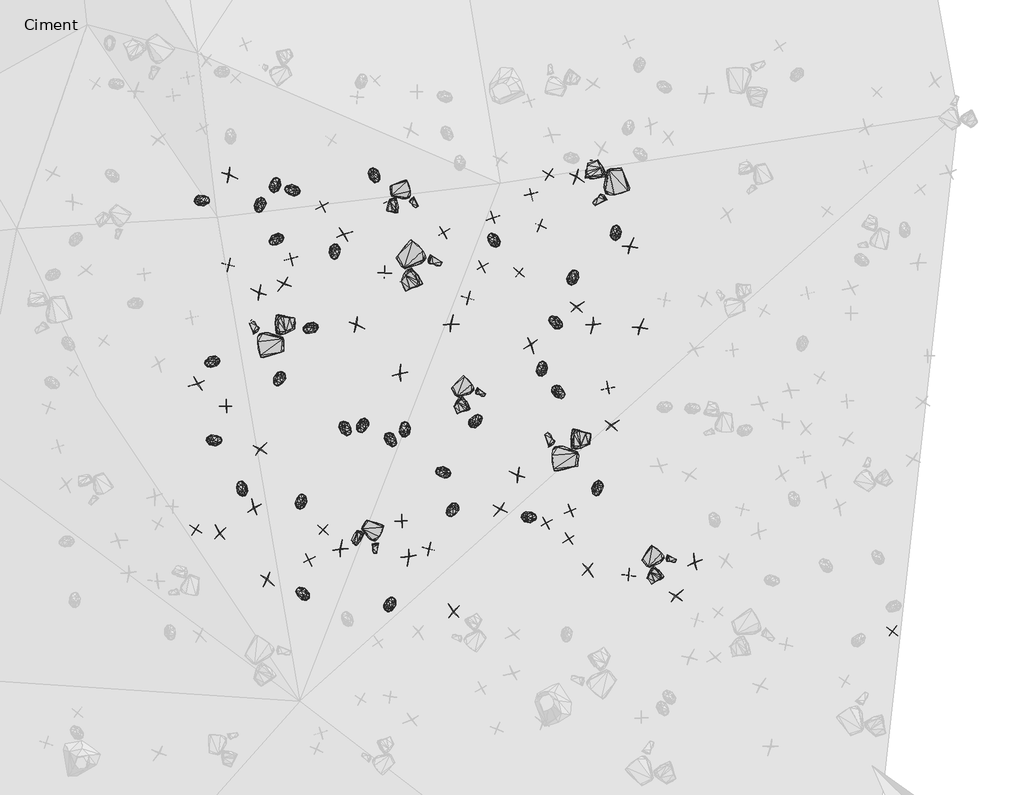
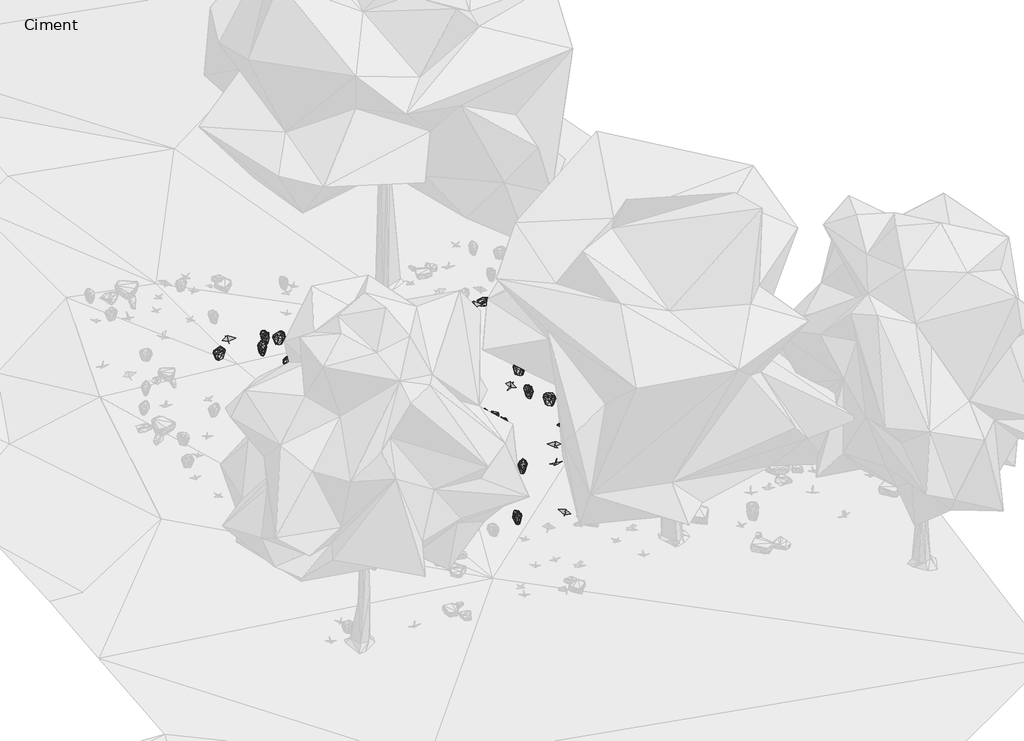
# One storey, part 18 of 30: 89 geographic elements.
"""IFC4 building model written with IfcOpenShell, lengths in millimetres."""

from ifc_helpers import new_model, si_unit, origin, place, context, project, spatial, transform, mapped, element, save
from components import enscape_assetdefinition_bush_025_fern_enscape_5718bf32, enscape_assetdefinition_bush_054_plant_09_version_2_enscape_7b546a12, enscape_assetdefinition_bush_062_plant_09_version_3_enscape_ccf8c8eb, enscape_assetdefinition_stone_013_group_enscape_516da325, enscape_assetdefinition_stone_013_group_enscape_db9b3e91

model = new_model("IFC4")

# Units and contexts
model_context = context("Model", 3, world=origin())
ifc_project = project(units=[si_unit("LENGTHUNIT", "METRE", prefix="MILLI")], contexts=[model_context])

# Site, building, storey
site = spatial("IfcSite", under=ifc_project)
building = spatial("IfcBuilding", under=site)
storey = spatial("IfcBuildingStorey", under=building, Name="Ciment", Elevation=-1500.0)

# Geographic elements
placement = place(None, origin())
enscape_assetdefinition_bush_025_fern_enscape_shape = enscape_assetdefinition_bush_025_fern_enscape_5718bf32(model_context)
element("IfcGeographicElement", 1, ObjectType="Enscape AssetDefinition - Bush 025 Fern : Enscape AssetDefinition - Bush 025 Fern", at=placement, inside=storey, context=model_context, shape_type="MappedRepresentation", body=[
    mapped(enscape_assetdefinition_bush_025_fern_enscape_shape, transform((20429.9945831, -5475.0347137, -2126.5244484), x_axis=(-0.9916367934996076, 0.12905994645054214, 0.0), y_axis=(-0.12905994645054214, -0.9916367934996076, 0.0), z_axis=(0.0, 0.0, 1.0))),
])
element("IfcGeographicElement", 2, ObjectType="Enscape AssetDefinition - Bush 025 Fern : Enscape AssetDefinition - Bush 025 Fern", at=placement, inside=storey, context=model_context, shape_type="MappedRepresentation", body=[
    mapped(enscape_assetdefinition_bush_025_fern_enscape_shape, transform((18992.4526215, -4648.5671997, -1836.2388611), x_axis=(-0.3799114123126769, -0.9250228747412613, 0.0), y_axis=(0.9250228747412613, -0.3799114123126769, 0.0), z_axis=(0.0, 0.0, 1.0))),
])
element("IfcGeographicElement", 3, ObjectType="Enscape AssetDefinition - Bush 025 Fern : Enscape AssetDefinition - Bush 025 Fern", at=placement, inside=storey, context=model_context, shape_type="MappedRepresentation", body=[
    mapped(enscape_assetdefinition_bush_025_fern_enscape_shape, transform((23517.868042, -1201.7459869, -2312.9065037), x_axis=(-0.02106821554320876, 0.9997780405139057, 0.0), y_axis=(-0.9997780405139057, -0.02106821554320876, 0.0), z_axis=(0.0, 0.0, 1.0))),
])
element("IfcGeographicElement", 4, ObjectType="Enscape AssetDefinition - Bush 025 Fern : Enscape AssetDefinition - Bush 025 Fern", at=placement, inside=storey, context=model_context, shape_type="MappedRepresentation", body=[
    mapped(enscape_assetdefinition_bush_025_fern_enscape_shape, transform((17742.1741486, -441.8296814, -1215.6568766), x_axis=(-0.9945937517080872, 0.10384252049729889, 0.0), y_axis=(-0.10384252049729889, -0.9945937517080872, 0.0), z_axis=(0.0, 0.0, 1.0))),
])
element("IfcGeographicElement", 5, ObjectType="Enscape AssetDefinition - Bush 025 Fern : Enscape AssetDefinition - Bush 025 Fern", at=placement, inside=storey, context=model_context, shape_type="MappedRepresentation", body=[
    mapped(enscape_assetdefinition_bush_025_fern_enscape_shape, transform((21022.146225, -4562.297821, -2157.5498581), x_axis=(0.621239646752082, 0.7836206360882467, 0.0), y_axis=(-0.7836206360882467, 0.621239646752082, 0.0), z_axis=(0.0, 0.0, 1.0))),
])
element("IfcGeographicElement", 6, ObjectType="Enscape AssetDefinition - Bush 025 Fern : Enscape AssetDefinition - Bush 025 Fern", at=placement, inside=storey, context=model_context, shape_type="MappedRepresentation", body=[
    mapped(enscape_assetdefinition_bush_025_fern_enscape_shape, transform((16145.4944611, -638.0557418, -947.3489523), x_axis=(0.9839113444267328, 0.178657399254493, 0.0), y_axis=(-0.178657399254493, 0.9839113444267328, 0.0), z_axis=(0.0, 0.0, 1.0))),
])
element("IfcGeographicElement", 7, ObjectType="Enscape AssetDefinition - Bush 025 Fern : Enscape AssetDefinition - Bush 025 Fern", at=placement, inside=storey, context=model_context, shape_type="MappedRepresentation", body=[
    mapped(enscape_assetdefinition_bush_025_fern_enscape_shape, transform((17909.2311859, -5995.3522682, -1719.640255), x_axis=(0.1477593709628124, 0.9890233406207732, 0.0), y_axis=(-0.9890233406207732, 0.1477593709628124, 0.0), z_axis=(0.0, 0.0, 1.0))),
])
element("IfcGeographicElement", 8, ObjectType="Enscape AssetDefinition - Bush 025 Fern : Enscape AssetDefinition - Bush 025 Fern", at=placement, inside=storey, context=model_context, shape_type="MappedRepresentation", body=[
    mapped(enscape_assetdefinition_bush_025_fern_enscape_shape, transform((23180.6926727, -5766.8018341, -2461.9207382), x_axis=(-0.1483218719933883, -0.9889391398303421, 0.0), y_axis=(0.9889391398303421, -0.1483218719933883, 0.0), z_axis=(0.0, 0.0, 1.0))),
])
element("IfcGeographicElement", 9, ObjectType="Enscape AssetDefinition - Bush 025 Fern : Enscape AssetDefinition - Bush 025 Fern", at=placement, inside=storey, context=model_context, shape_type="MappedRepresentation", body=[
    mapped(enscape_assetdefinition_bush_025_fern_enscape_shape, transform((20595.7355499, -6149.980545, -2182.259798), x_axis=(-0.4958981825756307, -0.8683806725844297, 0.0), y_axis=(0.8683806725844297, -0.4958981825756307, 0.0), z_axis=(0.0, 0.0, 1.0))),
])
element("IfcGeographicElement", 10, ObjectType="Enscape AssetDefinition - Bush 025 Fern : Enscape AssetDefinition - Bush 025 Fern", at=placement, inside=storey, context=model_context, shape_type="MappedRepresentation", body=[
    mapped(enscape_assetdefinition_bush_025_fern_enscape_shape, transform((17509.1342926, -3814.912796, -1460.5191946), x_axis=(-0.39337338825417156, -0.9193787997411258, 0.0), y_axis=(0.9193787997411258, -0.39337338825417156, 0.0), z_axis=(0.0, 0.0, 1.0))),
])
element("IfcGeographicElement", 11, ObjectType="Enscape AssetDefinition - Bush 025 Fern : Enscape AssetDefinition - Bush 025 Fern", at=placement, inside=storey, context=model_context, shape_type="MappedRepresentation", body=[
    mapped(enscape_assetdefinition_bush_025_fern_enscape_shape, transform((17166.55159, -719.8562622, -1131.8030357), x_axis=(-0.1785359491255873, -0.9839333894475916, 0.0), y_axis=(0.9839333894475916, -0.1785359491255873, 0.0), z_axis=(0.0, 0.0, 1.0))),
])
element("IfcGeographicElement", 12, ObjectType="Enscape AssetDefinition - Bush 025 Fern : Enscape AssetDefinition - Bush 025 Fern", at=placement, inside=storey, context=model_context, shape_type="MappedRepresentation", body=[
    mapped(enscape_assetdefinition_bush_025_fern_enscape_shape, transform((16852.5276184, -5760.5209351, -1508.261323), x_axis=(-0.42142733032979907, 0.9068621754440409, 0.0), y_axis=(-0.9068621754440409, -0.42142733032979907, 0.0), z_axis=(0.0, 0.0, 1.0))),
])
element("IfcGeographicElement", 13, ObjectType="Enscape AssetDefinition - Bush 025 Fern : Enscape AssetDefinition - Bush 025 Fern", at=placement, inside=storey, context=model_context, shape_type="MappedRepresentation", body=[
    mapped(enscape_assetdefinition_bush_025_fern_enscape_shape, transform((22200.9029388, -3625.3814697, -2263.812542), x_axis=(0.02608680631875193, 0.9996596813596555, 0.0), y_axis=(-0.9996596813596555, 0.02608680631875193, 0.0), z_axis=(0.0, 0.0, 1.0))),
])
element("IfcGeographicElement", 14, ObjectType="Enscape AssetDefinition - Bush 025 Fern : Enscape AssetDefinition - Bush 025 Fern", at=placement, inside=storey, context=model_context, shape_type="MappedRepresentation", body=[
    mapped(enscape_assetdefinition_bush_025_fern_enscape_shape, transform((18064.0087128, -2906.496048, -1502.6144981), x_axis=(-0.9023000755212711, -0.43110854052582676, 0.0), y_axis=(0.43110854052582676, -0.9023000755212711, 0.0), z_axis=(0.0, 0.0, 1.0))),
])
element("IfcGeographicElement", 15, ObjectType="Enscape AssetDefinition - Bush 025 Fern : Enscape AssetDefinition - Bush 025 Fern", at=placement, inside=storey, context=model_context, shape_type="MappedRepresentation", body=[
    mapped(enscape_assetdefinition_bush_025_fern_enscape_shape, transform((16311.7465973, -3506.7672729, -1225.3676653), x_axis=(-0.9101485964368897, -0.414281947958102, 0.0), y_axis=(0.414281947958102, -0.9101485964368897, 0.0), z_axis=(0.0, 0.0, 1.0))),
])
element("IfcGeographicElement", 16, ObjectType="Enscape AssetDefinition - Bush 025 Fern : Enscape AssetDefinition - Bush 025 Fern", at=placement, inside=storey, context=model_context, shape_type="MappedRepresentation", body=[
    mapped(enscape_assetdefinition_bush_025_fern_enscape_shape, transform((22757.2498322, -2000.1544952, -2254.140377), x_axis=(0.25272256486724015, 0.9675387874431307, 0.0), y_axis=(-0.9675387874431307, 0.25272256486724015, 0.0), z_axis=(0.0, 0.0, 1.0))),
])
element("IfcGeographicElement", 17, ObjectType="Enscape AssetDefinition - Bush 025 Fern : Enscape AssetDefinition - Bush 025 Fern", at=placement, inside=storey, context=model_context, shape_type="MappedRepresentation", body=[
    mapped(enscape_assetdefinition_bush_025_fern_enscape_shape, transform((19500.2613068, -4905.2677155, -1962.5496864), x_axis=(0.6623622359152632, -0.7491837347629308, 0.0), y_axis=(0.7491837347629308, 0.6623622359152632, 0.0), z_axis=(0.0, 0.0, 1.0))),
])
element("IfcGeographicElement", 18, ObjectType="Enscape AssetDefinition - Bush 025 Fern : Enscape AssetDefinition - Bush 025 Fern", at=placement, inside=storey, context=model_context, shape_type="MappedRepresentation", body=[
    mapped(enscape_assetdefinition_bush_025_fern_enscape_shape, transform((18497.7931976, -1550.9548187, -1483.4547043), x_axis=(0.0647370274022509, -0.9979023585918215, 0.0), y_axis=(0.9979023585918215, 0.0647370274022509, 0.0), z_axis=(0.0, 0.0, 1.0))),
])
element("IfcGeographicElement", 19, ObjectType="Enscape AssetDefinition - Bush 025 Fern : Enscape AssetDefinition - Bush 025 Fern", at=placement, inside=storey, context=model_context, shape_type="MappedRepresentation", body=[
    mapped(enscape_assetdefinition_bush_025_fern_enscape_shape, transform((17453.8249969, -1327.1120787, -1248.2994795), x_axis=(-0.7816274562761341, -0.6237455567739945, 0.0), y_axis=(0.6237455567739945, -0.7816274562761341, 0.0), z_axis=(0.0, 0.0, 1.0))),
])
element("IfcGeographicElement", 20, ObjectType="Enscape AssetDefinition - Bush 025 Fern : Enscape AssetDefinition - Bush 025 Fern", at=placement, inside=storey, context=model_context, shape_type="MappedRepresentation", body=[
    mapped(enscape_assetdefinition_bush_025_fern_enscape_shape, transform((22492.4945831, -4055.6445122, -2323.5783577), x_axis=(0.805632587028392, -0.5924155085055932, 0.0), y_axis=(0.5924155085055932, 0.805632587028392, 0.0), z_axis=(0.0, 0.0, 1.0))),
])
element("IfcGeographicElement", 21, ObjectType="Enscape AssetDefinition - Bush 025 Fern : Enscape AssetDefinition - Bush 025 Fern", at=placement, inside=storey, context=model_context, shape_type="MappedRepresentation", body=[
    mapped(enscape_assetdefinition_bush_025_fern_enscape_shape, transform((17929.3384552, -7633.7413788, -1856.0079336), x_axis=(-0.8194185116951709, 0.5731956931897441, 0.0), y_axis=(-0.5731956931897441, -0.8194185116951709, 0.0), z_axis=(0.0, 0.0, 1.0))),
])
element("IfcGeographicElement", 22, ObjectType="Enscape AssetDefinition - Bush 025 Fern : Enscape AssetDefinition - Bush 025 Fern", at=placement, inside=storey, context=model_context, shape_type="MappedRepresentation", body=[
    mapped(enscape_assetdefinition_bush_025_fern_enscape_shape, transform((17446.5045929, -350.6736755, -1138.6846304), x_axis=(0.1604189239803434, 0.9870490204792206, 0.0), y_axis=(-0.9870490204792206, 0.1604189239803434, 0.0), z_axis=(0.0, 0.0, 1.0))),
])
element("IfcGeographicElement", 23, ObjectType="Enscape AssetDefinition - Bush 025 Fern : Enscape AssetDefinition - Bush 025 Fern", at=placement, inside=storey, context=model_context, shape_type="MappedRepresentation", body=[
    mapped(enscape_assetdefinition_bush_025_fern_enscape_shape, transform((22436.3574982, -2798.2158661, -2252.6726723), x_axis=(-0.8386980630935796, 0.544596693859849, 0.0), y_axis=(-0.544596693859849, -0.8386980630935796, 0.0), z_axis=(0.0, 0.0, 1.0))),
])
element("IfcGeographicElement", 24, ObjectType="Enscape AssetDefinition - Bush 025 Fern : Enscape AssetDefinition - Bush 025 Fern", at=placement, inside=storey, context=model_context, shape_type="MappedRepresentation", body=[
    mapped(enscape_assetdefinition_bush_025_fern_enscape_shape, transform((16361.9937897, -4911.491394, -1362.6643419), x_axis=(0.9962879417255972, 0.08608331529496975, 0.0), y_axis=(-0.08608331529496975, 0.9962879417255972, 0.0), z_axis=(0.0, 0.0, 1.0))),
])
element("IfcGeographicElement", 25, ObjectType="Enscape AssetDefinition - Bush 025 Fern : Enscape AssetDefinition - Bush 025 Fern", at=placement, inside=storey, context=model_context, shape_type="MappedRepresentation", body=[
    mapped(enscape_assetdefinition_bush_025_fern_enscape_shape, transform((21336.9140625, -1331.111908, -2035.1753235), x_axis=(-0.676167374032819, 0.736748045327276, 0.0), y_axis=(-0.736748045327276, -0.676167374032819, 0.0), z_axis=(0.0, 0.0, 1.0))),
])
element("IfcGeographicElement", 26, ObjectType="Enscape AssetDefinition - Bush 025 Fern : Enscape AssetDefinition - Bush 025 Fern", at=placement, inside=storey, context=model_context, shape_type="MappedRepresentation", body=[
    mapped(enscape_assetdefinition_bush_025_fern_enscape_shape, transform((19494.2455292, -7828.918457, -2123.5918999), x_axis=(0.3709251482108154, 0.9286627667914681, 0.0), y_axis=(-0.9286627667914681, 0.3709251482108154, 0.0), z_axis=(0.0, 0.0, 1.0))),
])
element("IfcGeographicElement", 27, ObjectType="Enscape AssetDefinition - Bush 025 Fern : Enscape AssetDefinition - Bush 025 Fern", at=placement, inside=storey, context=model_context, shape_type="MappedRepresentation", body=[
    mapped(enscape_assetdefinition_bush_025_fern_enscape_shape, transform((19205.0266266, -193.1381226, -1495.0979948), x_axis=(0.5248294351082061, -0.8512074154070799, 0.0), y_axis=(0.8512074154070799, 0.5248294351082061, 0.0), z_axis=(0.0, 0.0, 1.0))),
])
element("IfcGeographicElement", 28, ObjectType="Enscape AssetDefinition - Bush 025 Fern : Enscape AssetDefinition - Bush 025 Fern", at=placement, inside=storey, context=model_context, shape_type="MappedRepresentation", body=[
    mapped(enscape_assetdefinition_bush_025_fern_enscape_shape, transform((19755.361557, -4706.653595, -1999.5732307), x_axis=(-0.07385146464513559, 0.9972692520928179, 0.0), y_axis=(-0.9972692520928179, -0.07385146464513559, 0.0), z_axis=(0.0, 0.0, 1.0))),
])
element("IfcGeographicElement", 29, ObjectType="Enscape AssetDefinition - Bush 025 Fern : Enscape AssetDefinition - Bush 025 Fern", at=placement, inside=storey, context=model_context, shape_type="MappedRepresentation", body=[
    mapped(enscape_assetdefinition_bush_025_fern_enscape_shape, transform((21973.783493, -6281.5208435, -2353.1739712), x_axis=(0.996727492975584, 0.08083504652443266, 0.0), y_axis=(-0.08083504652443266, 0.996727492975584, 0.0), z_axis=(0.0, 0.0, 1.0))),
])
element("IfcGeographicElement", 30, ObjectType="Enscape AssetDefinition - Bush 025 Fern : Enscape AssetDefinition - Bush 025 Fern", at=placement, inside=storey, context=model_context, shape_type="MappedRepresentation", body=[
    mapped(enscape_assetdefinition_bush_025_fern_enscape_shape, transform((18692.8462982, -4705.7271004, -1778.5462141), x_axis=(0.6329891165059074, -0.7741606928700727, 0.0), y_axis=(0.7741606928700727, 0.6329891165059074, 0.0), z_axis=(0.0, 0.0, 1.0))),
])
enscape_assetdefinition_bush_054_plant_09_version_2_enscape_shape = enscape_assetdefinition_bush_054_plant_09_version_2_enscape_7b546a12(model_context)
element("IfcGeographicElement", 31, ObjectType="Enscape AssetDefinition - Bush 054 Plant 09, Version 2 : Enscape AssetDefinition - Bush 054 Plant 09, Version 2", at=placement, inside=storey, context=model_context, shape_type="MappedRepresentation", body=[
    mapped(enscape_assetdefinition_bush_054_plant_09_version_2_enscape_shape, transform((19389.6961212, -1918.6115265, -1698.590517), x_axis=(0.019739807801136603, -0.9998051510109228, 0.0), y_axis=(0.9998051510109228, 0.019739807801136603, 0.0), z_axis=(0.0, 0.0, 1.0))),
])
element("IfcGeographicElement", 32, ObjectType="Enscape AssetDefinition - Bush 054 Plant 09, Version 2 : Enscape AssetDefinition - Bush 054 Plant 09, Version 2", at=placement, inside=storey, context=model_context, shape_type="MappedRepresentation", body=[
    mapped(enscape_assetdefinition_bush_054_plant_09_version_2_enscape_shape, transform((22676.9104004, -6670.0267792, -2423.7625599), x_axis=(0.812369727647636, 0.5831427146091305, 0.0), y_axis=(-0.5831427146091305, 0.812369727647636, 0.0), z_axis=(0.0, 0.0, 1.0))),
])
element("IfcGeographicElement", 33, ObjectType="Enscape AssetDefinition - Bush 054 Plant 09, Version 2 : Enscape AssetDefinition - Bush 054 Plant 09, Version 2", at=placement, inside=storey, context=model_context, shape_type="MappedRepresentation", body=[
    mapped(enscape_assetdefinition_bush_054_plant_09_version_2_enscape_shape, transform((18284.4791412, -731.6246033, -1372.9912043), x_axis=(-0.5066175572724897, 0.8621708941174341, 0.0), y_axis=(-0.8621708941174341, -0.5066175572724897, 0.0), z_axis=(0.0, 0.0, 1.0))),
])
element("IfcGeographicElement", 34, ObjectType="Enscape AssetDefinition - Bush 054 Plant 09, Version 2 : Enscape AssetDefinition - Bush 054 Plant 09, Version 2", at=placement, inside=storey, context=model_context, shape_type="MappedRepresentation", body=[
    mapped(enscape_assetdefinition_bush_054_plant_09_version_2_enscape_shape, transform((22706.5296173, -6167.9096222, -2421.2870598), x_axis=(0.8968799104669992, 0.4422741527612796, 0.0), y_axis=(-0.4422741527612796, 0.8968799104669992, 0.0), z_axis=(0.0, 0.0, 1.0))),
])
element("IfcGeographicElement", 35, ObjectType="Enscape AssetDefinition - Bush 054 Plant 09, Version 2 : Enscape AssetDefinition - Bush 054 Plant 09, Version 2", at=placement, inside=storey, context=model_context, shape_type="MappedRepresentation", body=[
    mapped(enscape_assetdefinition_bush_054_plant_09_version_2_enscape_shape, transform((22163.8889313, -1075.548172, -2130.0423145), x_axis=(-0.9529272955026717, 0.3031988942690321, 0.0), y_axis=(-0.3031988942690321, -0.9529272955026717, 0.0), z_axis=(0.0, 0.0, 1.0))),
])
element("IfcGeographicElement", 36, ObjectType="Enscape AssetDefinition - Bush 054 Plant 09, Version 2 : Enscape AssetDefinition - Bush 054 Plant 09, Version 2", at=placement, inside=storey, context=model_context, shape_type="MappedRepresentation", body=[
    mapped(enscape_assetdefinition_bush_054_plant_09_version_2_enscape_shape, transform((20179.9869537, -6847.34869, -2163.3358002), x_axis=(0.9891725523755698, -0.14675715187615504, 0.0), y_axis=(0.14675715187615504, 0.9891725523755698, 0.0), z_axis=(0.0, 0.0, 1.0))),
])
element("IfcGeographicElement", 37, ObjectType="Enscape AssetDefinition - Bush 054 Plant 09, Version 2 : Enscape AssetDefinition - Bush 054 Plant 09, Version 2", at=placement, inside=storey, context=model_context, shape_type="MappedRepresentation", body=[
    mapped(enscape_assetdefinition_bush_054_plant_09_version_2_enscape_shape, transform((19697.2808838, -6353.2524109, -2075.4313469), x_axis=(0.9945570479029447, 0.1041934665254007, 0.0), y_axis=(-0.1041934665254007, 0.9945570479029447, 0.0), z_axis=(0.0, 0.0, 1.0))),
])
element("IfcGeographicElement", 38, ObjectType="Enscape AssetDefinition - Bush 054 Plant 09, Version 2 : Enscape AssetDefinition - Bush 054 Plant 09, Version 2", at=placement, inside=storey, context=model_context, shape_type="MappedRepresentation", body=[
    mapped(enscape_assetdefinition_bush_054_plant_09_version_2_enscape_shape, transform((20444.3321228, -1198.8697052, -1859.8359823), x_axis=(-0.8314252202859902, -0.5556366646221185, 0.0), y_axis=(0.5556366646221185, -0.8314252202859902, 0.0), z_axis=(0.0, 0.0, 1.0))),
])
element("IfcGeographicElement", 39, ObjectType="Enscape AssetDefinition - Bush 054 Plant 09, Version 2 : Enscape AssetDefinition - Bush 054 Plant 09, Version 2", at=placement, inside=storey, context=model_context, shape_type="MappedRepresentation", body=[
    mapped(enscape_assetdefinition_bush_054_plant_09_version_2_enscape_shape, transform((20879.6310425, -2376.0852814, -2028.4161568), x_axis=(0.9795997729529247, -0.20095841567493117, 0.0), y_axis=(0.20095841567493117, 0.9795997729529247, 0.0), z_axis=(0.0, 0.0, 1.0))),
])
element("IfcGeographicElement", 40, ObjectType="Enscape AssetDefinition - Bush 054 Plant 09, Version 2 : Enscape AssetDefinition - Bush 054 Plant 09, Version 2", at=placement, inside=storey, context=model_context, shape_type="MappedRepresentation", body=[
    mapped(enscape_assetdefinition_bush_054_plant_09_version_2_enscape_shape, transform((28443.7618256, -8309.1602325, -2986.4516258), x_axis=(-0.5613128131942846, -0.8276037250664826, 0.0), y_axis=(0.8276037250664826, -0.5613128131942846, 0.0), z_axis=(0.0, 0.0, 1.0))),
])
element("IfcGeographicElement", 41, ObjectType="Enscape AssetDefinition - Bush 054 Plant 09, Version 2 : Enscape AssetDefinition - Bush 054 Plant 09, Version 2", at=placement, inside=storey, context=model_context, shape_type="MappedRepresentation", body=[
    mapped(enscape_assetdefinition_bush_054_plant_09_version_2_enscape_shape, transform((22313.5700226, -171.6708988, -2105.492115), x_axis=(0.8825220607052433, -0.47027099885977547, 0.0), y_axis=(0.47027099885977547, 0.8825220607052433, 0.0), z_axis=(0.0, 0.0, 1.0))),
])
element("IfcGeographicElement", 42, ObjectType="Enscape AssetDefinition - Bush 054 Plant 09, Version 2 : Enscape AssetDefinition - Bush 054 Plant 09, Version 2", at=placement, inside=storey, context=model_context, shape_type="MappedRepresentation", body=[
    mapped(enscape_assetdefinition_bush_054_plant_09_version_2_enscape_shape, transform((22005.9604645, -520.9866166, -2081.4123154), x_axis=(-0.27984537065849, 0.9600450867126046, 0.0), y_axis=(-0.9600450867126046, -0.27984537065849, 0.0), z_axis=(0.0, 0.0, 1.0))),
])
element("IfcGeographicElement", 43, ObjectType="Enscape AssetDefinition - Bush 054 Plant 09, Version 2 : Enscape AssetDefinition - Bush 054 Plant 09, Version 2", at=placement, inside=storey, context=model_context, shape_type="MappedRepresentation", body=[
    mapped(enscape_assetdefinition_bush_054_plant_09_version_2_enscape_shape, transform((23739.6831512, -7310.1177216, -2531.0130119), x_axis=(-0.02795147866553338, -0.9996092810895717, 0.0), y_axis=(0.9996092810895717, -0.02795147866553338, 0.0), z_axis=(0.0, 0.0, 1.0))),
])
element("IfcGeographicElement", 44, ObjectType="Enscape AssetDefinition - Bush 054 Plant 09, Version 2 : Enscape AssetDefinition - Bush 054 Plant 09, Version 2", at=placement, inside=storey, context=model_context, shape_type="MappedRepresentation", body=[
    mapped(enscape_assetdefinition_bush_054_plant_09_version_2_enscape_shape, transform((22273.4870911, -6378.528595, -2382.5411797), x_axis=(-0.8607932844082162, -0.5089547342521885, 0.0), y_axis=(0.5089547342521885, -0.8607932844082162, 0.0), z_axis=(0.0, 0.0, 1.0))),
])
element("IfcGeographicElement", 45, ObjectType="Enscape AssetDefinition - Bush 054 Plant 09, Version 2 : Enscape AssetDefinition - Bush 054 Plant 09, Version 2", at=placement, inside=storey, context=model_context, shape_type="MappedRepresentation", body=[
    mapped(enscape_assetdefinition_bush_054_plant_09_version_2_enscape_shape, transform((21791.2998199, -1925.1365662, -2124.4409084), x_axis=(0.6052780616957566, 0.7960141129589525, 0.0), y_axis=(-0.7960141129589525, 0.6052780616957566, 0.0), z_axis=(0.0, 0.0, 1.0))),
])
element("IfcGeographicElement", 46, ObjectType="Enscape AssetDefinition - Bush 054 Plant 09, Version 2 : Enscape AssetDefinition - Bush 054 Plant 09, Version 2", at=placement, inside=storey, context=model_context, shape_type="MappedRepresentation", body=[
    mapped(enscape_assetdefinition_bush_054_plant_09_version_2_enscape_shape, transform((21131.7024231, -1807.7794313, -2032.5322151), x_axis=(-0.8637771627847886, -0.5038740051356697, 0.0), y_axis=(0.5038740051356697, -0.8637771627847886, 0.0), z_axis=(0.0, 0.0, 1.0))),
])
element("IfcGeographicElement", 47, ObjectType="Enscape AssetDefinition - Bush 054 Plant 09, Version 2 : Enscape AssetDefinition - Bush 054 Plant 09, Version 2", at=placement, inside=storey, context=model_context, shape_type="MappedRepresentation", body=[
    mapped(enscape_assetdefinition_bush_054_plant_09_version_2_enscape_shape, transform((16027.5478363, -6498.4517097, -1464.5404816), x_axis=(0.49828500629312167, 0.8670132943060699, 0.0), y_axis=(-0.8670132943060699, 0.49828500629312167, 0.0), z_axis=(0.0, 0.0, 1.0))),
])
element("IfcGeographicElement", 48, ObjectType="Enscape AssetDefinition - Bush 054 Plant 09, Version 2 : Enscape AssetDefinition - Bush 054 Plant 09, Version 2", at=placement, inside=storey, context=model_context, shape_type="MappedRepresentation", body=[
    mapped(enscape_assetdefinition_bush_054_plant_09_version_2_enscape_shape, transform((18293.4589386, -6498.7239838, -1840.1532173), x_axis=(-0.6173871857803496, -0.7866594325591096, 0.0), y_axis=(0.7866594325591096, -0.6173871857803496, 0.0), z_axis=(0.0, 0.0, 1.0))),
])
element("IfcGeographicElement", 49, ObjectType="Enscape AssetDefinition - Bush 054 Plant 09, Version 2 : Enscape AssetDefinition - Bush 054 Plant 09, Version 2", at=placement, inside=storey, context=model_context, shape_type="MappedRepresentation", body=[
    mapped(enscape_assetdefinition_bush_054_plant_09_version_2_enscape_shape, transform((18040.0161743, -7034.8544121, -1830.7057619), x_axis=(-0.8753163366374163, -0.4835507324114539, 0.0), y_axis=(0.4835507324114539, -0.8753163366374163, 0.0), z_axis=(0.0, 0.0, 1.0))),
])
element("IfcGeographicElement", 50, ObjectType="Enscape AssetDefinition - Bush 054 Plant 09, Version 2 : Enscape AssetDefinition - Bush 054 Plant 09, Version 2", at=placement, inside=storey, context=model_context, shape_type="MappedRepresentation", body=[
    mapped(enscape_assetdefinition_bush_054_plant_09_version_2_enscape_shape, transform((16566.7438507, -4303.4119606, -1334.0505362), x_axis=(0.9980392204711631, 0.0625916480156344, 0.0), y_axis=(-0.0625916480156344, 0.9980392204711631, 0.0), z_axis=(0.0, 0.0, 1.0))),
])
element("IfcGeographicElement", 51, ObjectType="Enscape AssetDefinition - Bush 054 Plant 09, Version 2 : Enscape AssetDefinition - Bush 054 Plant 09, Version 2", at=placement, inside=storey, context=model_context, shape_type="MappedRepresentation", body=[
    mapped(enscape_assetdefinition_bush_054_plant_09_version_2_enscape_shape, transform((16609.9529266, -1783.8935852, -1109.6675396), x_axis=(0.9855215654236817, -0.1695501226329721, 0.0), y_axis=(0.1695501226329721, 0.9855215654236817, 0.0), z_axis=(0.0, 0.0, 1.0))),
])
element("IfcGeographicElement", 52, ObjectType="Enscape AssetDefinition - Bush 054 Plant 09, Version 2 : Enscape AssetDefinition - Bush 054 Plant 09, Version 2", at=placement, inside=storey, context=model_context, shape_type="MappedRepresentation", body=[
    mapped(enscape_assetdefinition_bush_054_plant_09_version_2_enscape_shape, transform((21317.4419403, -939.453125, -2012.8307343), x_axis=(0.3552396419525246, -0.9347752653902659, 0.0), y_axis=(0.9347752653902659, 0.3552396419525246, 0.0), z_axis=(0.0, 0.0, 1.0))),
])
element("IfcGeographicElement", 53, ObjectType="Enscape AssetDefinition - Bush 054 Plant 09, Version 2 : Enscape AssetDefinition - Bush 054 Plant 09, Version 2", at=placement, inside=storey, context=model_context, shape_type="MappedRepresentation", body=[
    mapped(enscape_assetdefinition_bush_054_plant_09_version_2_enscape_shape, transform((23371.0765839, -3977.3616791, -2434.1373444), x_axis=(0.22935557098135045, -0.9733427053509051, 0.0), y_axis=(0.9733427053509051, 0.22935557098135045, 0.0), z_axis=(0.0, 0.0, 1.0))),
])
element("IfcGeographicElement", 54, ObjectType="Enscape AssetDefinition - Bush 054 Plant 09, Version 2 : Enscape AssetDefinition - Bush 054 Plant 09, Version 2", at=placement, inside=storey, context=model_context, shape_type="MappedRepresentation", body=[
    mapped(enscape_assetdefinition_bush_054_plant_09_version_2_enscape_shape, transform((17728.4297943, -1672.6932526, -1333.286047), x_axis=(-0.2974584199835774, 0.9547347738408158, 0.0), y_axis=(-0.9547347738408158, -0.2974584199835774, 0.0), z_axis=(0.0, 0.0, 1.0))),
])
enscape_assetdefinition_bush_062_plant_09_version_3_enscape_shape = enscape_assetdefinition_bush_062_plant_09_version_3_enscape_ccf8c8eb(model_context)
element("IfcGeographicElement", 55, ObjectType="Enscape AssetDefinition - Bush 062 Plant 09, Version 3 : Enscape AssetDefinition - Bush 062 Plant 09, Version 3", at=placement, inside=storey, context=model_context, shape_type="MappedRepresentation", body=[
    mapped(enscape_assetdefinition_bush_062_plant_09_version_3_enscape_shape, transform((23445.7530975, -4632.7362061, -2475.0733376), x_axis=(0.830559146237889, -0.5569304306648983, 0.0), y_axis=(0.5569304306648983, 0.830559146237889, 0.0), z_axis=(0.0, 0.0, 1.0))),
])
element("IfcGeographicElement", 56, ObjectType="Enscape AssetDefinition - Bush 062 Plant 09, Version 3 : Enscape AssetDefinition - Bush 062 Plant 09, Version 3", at=placement, inside=storey, context=model_context, shape_type="MappedRepresentation", body=[
    mapped(enscape_assetdefinition_bush_062_plant_09_version_3_enscape_shape, transform((23768.4421539, -1443.2582855, -2357.780695), x_axis=(0.9999317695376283, -0.011681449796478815, 0.0), y_axis=(0.011681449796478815, 0.9999317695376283, 0.0), z_axis=(0.0, 0.0, 1.0))),
])
element("IfcGeographicElement", 57, ObjectType="Enscape AssetDefinition - Bush 062 Plant 09, Version 3 : Enscape AssetDefinition - Bush 062 Plant 09, Version 3", at=placement, inside=storey, context=model_context, shape_type="MappedRepresentation", body=[
    mapped(enscape_assetdefinition_bush_062_plant_09_version_3_enscape_shape, transform((23023.5805511, -7218.4166908, -2462.3155594), x_axis=(-0.5652698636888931, -0.8249060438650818, 0.0), y_axis=(0.8249060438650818, -0.5652698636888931, 0.0), z_axis=(0.0, 0.0, 1.0))),
])
element("IfcGeographicElement", 58, ObjectType="Enscape AssetDefinition - Bush 062 Plant 09, Version 3 : Enscape AssetDefinition - Bush 062 Plant 09, Version 3", at=placement, inside=storey, context=model_context, shape_type="MappedRepresentation", body=[
    mapped(enscape_assetdefinition_bush_062_plant_09_version_3_enscape_shape, transform((22822.5154877, -2521.0781097, -2288.990736), x_axis=(0.8304332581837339, -0.5571181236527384, 0.0), y_axis=(0.5571181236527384, 0.8304332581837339, 0.0), z_axis=(0.0, 0.0, 1.0))),
])
element("IfcGeographicElement", 59, ObjectType="Enscape AssetDefinition - Bush 062 Plant 09, Version 3 : Enscape AssetDefinition - Bush 062 Plant 09, Version 3", at=placement, inside=storey, context=model_context, shape_type="MappedRepresentation", body=[
    mapped(enscape_assetdefinition_bush_062_plant_09_version_3_enscape_shape, transform((17178.7776947, -5055.3975105, -1491.9042587), x_axis=(0.9104189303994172, -0.4136875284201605, 0.0), y_axis=(0.4136875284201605, 0.9104189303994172, 0.0), z_axis=(0.0, 0.0, 1.0))),
])
element("IfcGeographicElement", 60, ObjectType="Enscape AssetDefinition - Bush 062 Plant 09, Version 3 : Enscape AssetDefinition - Bush 062 Plant 09, Version 3", at=placement, inside=storey, context=model_context, shape_type="MappedRepresentation", body=[
    mapped(enscape_assetdefinition_bush_062_plant_09_version_3_enscape_shape, transform((21754.2819977, -5528.7570953, -2301.8531799), x_axis=(0.02841568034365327, 0.9995961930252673, 0.0), y_axis=(-0.9995961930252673, 0.02841568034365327, 0.0), z_axis=(0.0, 0.0, 1.0))),
])
element("IfcGeographicElement", 61, ObjectType="Enscape AssetDefinition - Bush 062 Plant 09, Version 3 : Enscape AssetDefinition - Bush 062 Plant 09, Version 3", at=placement, inside=storey, context=model_context, shape_type="MappedRepresentation", body=[
    mapped(enscape_assetdefinition_bush_062_plant_09_version_3_enscape_shape, transform((23105.386734, -2856.8000793, -2342.839241), x_axis=(-0.9852624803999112, -0.17104924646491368, 0.0), y_axis=(0.17104924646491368, -0.9852624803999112, 0.0), z_axis=(0.0, 0.0, 1.0))),
])
element("IfcGeographicElement", 62, ObjectType="Enscape AssetDefinition - Bush 062 Plant 09, Version 3 : Enscape AssetDefinition - Bush 062 Plant 09, Version 3", at=placement, inside=storey, context=model_context, shape_type="MappedRepresentation", body=[
    mapped(enscape_assetdefinition_bush_062_plant_09_version_3_enscape_shape, transform((20577.9247284, -2826.4770508, -2011.8672848), x_axis=(0.9906129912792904, 0.13669638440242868, 0.0), y_axis=(-0.13669638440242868, 0.9906129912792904, 0.0), z_axis=(0.0, 0.0, 1.0))),
])
element("IfcGeographicElement", 63, ObjectType="Enscape AssetDefinition - Bush 062 Plant 09, Version 3 : Enscape AssetDefinition - Bush 062 Plant 09, Version 3", at=placement, inside=storey, context=model_context, shape_type="MappedRepresentation", body=[
    mapped(enscape_assetdefinition_bush_062_plant_09_version_3_enscape_shape, transform((18674.6044159, -1230.381012, -1494.358778), x_axis=(0.6184809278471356, -0.7857998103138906, 0.0), y_axis=(0.7857998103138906, 0.6184809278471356, 0.0), z_axis=(0.0, 0.0, 1.0))),
])
element("IfcGeographicElement", 64, ObjectType="Enscape AssetDefinition - Bush 062 Plant 09, Version 3 : Enscape AssetDefinition - Bush 062 Plant 09, Version 3", at=placement, inside=storey, context=model_context, shape_type="MappedRepresentation", body=[
    mapped(enscape_assetdefinition_bush_062_plant_09_version_3_enscape_shape, transform((16048.3341217, -3906.2995911, -1226.6310453), x_axis=(-0.6261731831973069, 0.7796840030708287, 0.0), y_axis=(-0.7796840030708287, -0.6261731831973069, 0.0), z_axis=(0.0, 0.0, 1.0))),
])
element("IfcGeographicElement", 65, ObjectType="Enscape AssetDefinition - Bush 062 Plant 09, Version 3 : Enscape AssetDefinition - Bush 062 Plant 09, Version 3", at=placement, inside=storey, context=model_context, shape_type="MappedRepresentation", body=[
    mapped(enscape_assetdefinition_bush_062_plant_09_version_3_enscape_shape, transform((19663.7554169, -3709.1941833, -1900.0482559), x_axis=(0.948081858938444, 0.31802639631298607, 0.0), y_axis=(-0.31802639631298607, 0.948081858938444, 0.0), z_axis=(0.0, 0.0, 1.0))),
])
element("IfcGeographicElement", 66, ObjectType="Enscape AssetDefinition - Bush 062 Plant 09, Version 3 : Enscape AssetDefinition - Bush 062 Plant 09, Version 3", at=placement, inside=storey, context=model_context, shape_type="MappedRepresentation", body=[
    mapped(enscape_assetdefinition_bush_062_plant_09_version_3_enscape_shape, transform((24917.6502228, -7075.302124, -2639.9645805), x_axis=(0.8826684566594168, 0.46999616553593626, 0.0), y_axis=(-0.46999616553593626, 0.8826684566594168, 0.0), z_axis=(0.0, 0.0, 1.0))),
])
element("IfcGeographicElement", 67, ObjectType="Enscape AssetDefinition - Bush 062 Plant 09, Version 3 : Enscape AssetDefinition - Bush 062 Plant 09, Version 3", at=placement, inside=storey, context=model_context, shape_type="MappedRepresentation", body=[
    mapped(enscape_assetdefinition_bush_062_plant_09_version_3_enscape_shape, transform((18898.2448578, -2847.7115631, -1671.3532209), x_axis=(-0.07743369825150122, -0.9969975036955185, 0.0), y_axis=(0.9969975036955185, -0.07743369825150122, 0.0), z_axis=(0.0, 0.0, 1.0))),
])
element("IfcGeographicElement", 68, ObjectType="Enscape AssetDefinition - Bush 062 Plant 09, Version 3 : Enscape AssetDefinition - Bush 062 Plant 09, Version 3", at=placement, inside=storey, context=model_context, shape_type="MappedRepresentation", body=[
    mapped(enscape_assetdefinition_bush_062_plant_09_version_3_enscape_shape, transform((21444.7612762, -6145.7672119, -2292.7117348), x_axis=(-0.9341252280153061, 0.35694545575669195, 0.0), y_axis=(-0.35694545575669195, -0.9341252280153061, 0.0), z_axis=(0.0, 0.0, 1.0))),
])
element("IfcGeographicElement", 69, ObjectType="Enscape AssetDefinition - Bush 062 Plant 09, Version 3 : Enscape AssetDefinition - Bush 062 Plant 09, Version 3", at=placement, inside=storey, context=model_context, shape_type="MappedRepresentation", body=[
    mapped(enscape_assetdefinition_bush_062_plant_09_version_3_enscape_shape, transform((19824.5391846, -6994.4782257, -2124.4452), x_axis=(-0.9672806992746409, -0.2537085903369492, 0.0), y_axis=(0.2537085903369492, -0.9672806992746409, 0.0), z_axis=(0.0, 0.0, 1.0))),
])
element("IfcGeographicElement", 70, ObjectType="Enscape AssetDefinition - Bush 062 Plant 09, Version 3 : Enscape AssetDefinition - Bush 062 Plant 09, Version 3", at=placement, inside=storey, context=model_context, shape_type="MappedRepresentation", body=[
    mapped(enscape_assetdefinition_bush_062_plant_09_version_3_enscape_shape, transform((16449.2931366, -6555.3188324, -1527.2078514), x_axis=(0.6259543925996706, 0.7798596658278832, 0.0), y_axis=(-0.7798596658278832, 0.6259543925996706, 0.0), z_axis=(0.0, 0.0, 1.0))),
])
element("IfcGeographicElement", 71, ObjectType="Enscape AssetDefinition - Bush 062 Plant 09, Version 3 : Enscape AssetDefinition - Bush 062 Plant 09, Version 3", at=placement, inside=storey, context=model_context, shape_type="MappedRepresentation", body=[
    mapped(enscape_assetdefinition_bush_062_plant_09_version_3_enscape_shape, transform((18603.7960052, -6834.7377777, -1931.7990541), x_axis=(0.9842484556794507, 0.17679077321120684, 0.0), y_axis=(-0.17679077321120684, 0.9842484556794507, 0.0), z_axis=(0.0, 0.0, 1.0))),
])
element("IfcGeographicElement", 72, ObjectType="Enscape AssetDefinition - Bush 062 Plant 09, Version 3 : Enscape AssetDefinition - Bush 062 Plant 09, Version 3", at=placement, inside=storey, context=model_context, shape_type="MappedRepresentation", body=[
    mapped(enscape_assetdefinition_bush_062_plant_09_version_3_enscape_shape, transform((24592.8153992, -7673.2463837, -2615.5235767), x_axis=(0.8904901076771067, -0.45500260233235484, 0.0), y_axis=(0.45500260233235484, 0.8904901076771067, 0.0), z_axis=(0.0, 0.0, 1.0))),
])
element("IfcGeographicElement", 73, ObjectType="Enscape AssetDefinition - Bush 062 Plant 09, Version 3 : Enscape AssetDefinition - Bush 062 Plant 09, Version 3", at=placement, inside=storey, context=model_context, shape_type="MappedRepresentation", body=[
    mapped(enscape_assetdefinition_bush_062_plant_09_version_3_enscape_shape, transform((22821.9223022, -215.9576416, -2172.3427773), x_axis=(-0.21081544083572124, -0.9775258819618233, 0.0), y_axis=(0.9775258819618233, -0.21081544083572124, 0.0), z_axis=(0.0, 0.0, 1.0))),
])
element("IfcGeographicElement", 74, ObjectType="Enscape AssetDefinition - Bush 062 Plant 09, Version 3 : Enscape AssetDefinition - Bush 062 Plant 09, Version 3", at=placement, inside=storey, context=model_context, shape_type="MappedRepresentation", body=[
    mapped(enscape_assetdefinition_bush_062_plant_09_version_3_enscape_shape, transform((16629.9915314, -177.2727966, -937.4724627), x_axis=(-0.04694545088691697, -0.9988974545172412, 0.0), y_axis=(0.9988974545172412, -0.04694545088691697, 0.0), z_axis=(0.0, 0.0, 1.0))),
])
element("IfcGeographicElement", 75, ObjectType="Enscape AssetDefinition - Bush 062 Plant 09, Version 3 : Enscape AssetDefinition - Bush 062 Plant 09, Version 3", at=placement, inside=storey, context=model_context, shape_type="MappedRepresentation", body=[
    mapped(enscape_assetdefinition_bush_062_plant_09_version_3_enscape_shape, transform((22007.1258545, -3210.9391689, -2217.5970078), x_axis=(-0.7776595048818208, -0.628685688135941, 0.0), y_axis=(0.628685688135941, -0.7776595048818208, 0.0), z_axis=(0.0, 0.0, 1.0))),
])
element("IfcGeographicElement", 76, ObjectType="Enscape AssetDefinition - Bush 062 Plant 09, Version 3 : Enscape AssetDefinition - Bush 062 Plant 09, Version 3", at=placement, inside=storey, context=model_context, shape_type="MappedRepresentation", body=[
    mapped(enscape_assetdefinition_bush_062_plant_09_version_3_enscape_shape, transform((17306.0932159, -7394.6399689, -1721.7404842), x_axis=(-0.33673141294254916, -0.9416007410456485, 0.0), y_axis=(0.9416007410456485, -0.33673141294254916, 0.0), z_axis=(0.0, 0.0, 1.0))),
])
element("IfcGeographicElement", 77, ObjectType="Enscape AssetDefinition - Bush 062 Plant 09, Version 3 : Enscape AssetDefinition - Bush 062 Plant 09, Version 3", at=placement, inside=storey, context=model_context, shape_type="MappedRepresentation", body=[
    mapped(enscape_assetdefinition_bush_062_plant_09_version_3_enscape_shape, transform((20614.0499115, -7952.5241852, -2242.1238422), x_axis=(0.571242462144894, 0.8207813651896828, 0.0), y_axis=(-0.8207813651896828, 0.571242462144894, 0.0), z_axis=(0.0, 0.0, 1.0))),
])
element("IfcGeographicElement", 78, ObjectType="Enscape AssetDefinition - Bush 062 Plant 09, Version 3 : Enscape AssetDefinition - Bush 062 Plant 09, Version 3", at=placement, inside=storey, context=model_context, shape_type="MappedRepresentation", body=[
    mapped(enscape_assetdefinition_bush_062_plant_09_version_3_enscape_shape, transform((23946.0067749, -2889.1944885, -2454.0462494), x_axis=(0.9999658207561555, 0.008267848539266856, 0.0), y_axis=(-0.008267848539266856, 0.9999658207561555, 0.0), z_axis=(0.0, 0.0, 1.0))),
])
element("IfcGeographicElement", 79, ObjectType="Enscape AssetDefinition - Bush 062 Plant 09, Version 3 : Enscape AssetDefinition - Bush 062 Plant 09, Version 3", at=placement, inside=storey, context=model_context, shape_type="MappedRepresentation", body=[
    mapped(enscape_assetdefinition_bush_062_plant_09_version_3_enscape_shape, transform((17144.9489594, -2275.812149, -1260.6096268), x_axis=(0.06895595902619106, 0.9976197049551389, 0.0), y_axis=(-0.9976197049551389, 0.06895595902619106, 0.0), z_axis=(0.0, 0.0, 1.0))),
])
element("IfcGeographicElement", 80, ObjectType="Enscape AssetDefinition - Bush 062 Plant 09, Version 3 : Enscape AssetDefinition - Bush 062 Plant 09, Version 3", at=placement, inside=storey, context=model_context, shape_type="MappedRepresentation", body=[
    mapped(enscape_assetdefinition_bush_062_plant_09_version_3_enscape_shape, transform((17060.2054596, -6100.2960205, -1568.0750608), x_axis=(0.8079838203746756, 0.589204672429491, 0.0), y_axis=(-0.589204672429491, 0.8079838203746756, 0.0), z_axis=(0.0, 0.0, 1.0))),
])
element("IfcGeographicElement", 81, ObjectType="Enscape AssetDefinition - Bush 062 Plant 09, Version 3 : Enscape AssetDefinition - Bush 062 Plant 09, Version 3", at=placement, inside=storey, context=model_context, shape_type="MappedRepresentation", body=[
    mapped(enscape_assetdefinition_bush_062_plant_09_version_3_enscape_shape, transform((17589.9333954, -2129.3258667, -1341.3264751), x_axis=(-0.9559158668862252, 0.29364069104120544, 0.0), y_axis=(-0.29364069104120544, -0.9559158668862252, 0.0), z_axis=(0.0, 0.0, 1.0))),
])
enscape_assetdefinition_stone_013_group_enscape_shape = enscape_assetdefinition_stone_013_group_enscape_516da325(model_context)
element("IfcGeographicElement", 82, ObjectType="Enscape AssetDefinition - Stone 013 Group : Enscape AssetDefinition - Stone 013 Group", at=placement, inside=storey, context=model_context, shape_type="MappedRepresentation", body=[
    mapped(enscape_assetdefinition_stone_013_group_enscape_shape, transform((23310.338974, -339.9810791, -2242.2764301), x_axis=(0.26996779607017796, -0.9628693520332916, 0.0), y_axis=(0.9628693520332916, 0.26996779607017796, 0.0), z_axis=(0.0, 0.0, 1.0))),
])
element("IfcGeographicElement", 83, ObjectType="Enscape AssetDefinition - Stone 013 Group : Enscape AssetDefinition - Stone 013 Group", at=placement, inside=storey, context=model_context, shape_type="MappedRepresentation", body=[
    mapped(enscape_assetdefinition_stone_013_group_enscape_shape, transform((22596.4412689, -5024.2943764, -2386.1124516), x_axis=(-0.9931087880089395, -0.11719613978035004, 0.0), y_axis=(0.11719613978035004, -0.9931087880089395, 0.0), z_axis=(0.0, 0.0, 1.0))),
])
element("IfcGeographicElement", 84, ObjectType="Enscape AssetDefinition - Stone 013 Group : Enscape AssetDefinition - Stone 013 Group", at=placement, inside=storey, context=model_context, shape_type="MappedRepresentation", body=[
    mapped(enscape_assetdefinition_stone_013_group_enscape_shape, transform((19990.7970428, -1777.1281004, -1812.1757507), x_axis=(0.7120221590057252, 0.7021569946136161, 0.0), y_axis=(-0.7021569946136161, 0.7120221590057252, 0.0), z_axis=(0.0, 0.0, 1.0))),
])
element("IfcGeographicElement", 85, ObjectType="Enscape AssetDefinition - Stone 013 Group : Enscape AssetDefinition - Stone 013 Group", at=placement, inside=storey, context=model_context, shape_type="MappedRepresentation", body=[
    mapped(enscape_assetdefinition_stone_013_group_enscape_shape, transform((17334.6576691, -2996.5705872, -1358.2116365), x_axis=(-0.9842585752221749, -0.17673442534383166, 0.0), y_axis=(0.17673442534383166, -0.9842585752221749, 0.0), z_axis=(0.0, 0.0, 1.0))),
])
enscape_assetdefinition_stone_013_group_enscape_2_shape = enscape_assetdefinition_stone_013_group_enscape_db9b3e91(model_context)
element("IfcGeographicElement", 86, ObjectType="Enscape AssetDefinition - Stone 013 Group : Enscape AssetDefinition - Stone 013 Group 2", at=placement, inside=storey, context=model_context, shape_type="MappedRepresentation", body=[
    mapped(enscape_assetdefinition_stone_013_group_enscape_2_shape, transform((24283.2126617, -7099.48349, -2580.2092552), x_axis=(0.6237734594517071, 0.781605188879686, 0.0), y_axis=(-0.781605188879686, 0.6237734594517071, 0.0), z_axis=(0.0, 0.0, 1.0))),
])
element("IfcGeographicElement", 87, ObjectType="Enscape AssetDefinition - Stone 013 Group : Enscape AssetDefinition - Stone 013 Group 2", at=placement, inside=storey, context=model_context, shape_type="MappedRepresentation", body=[
    mapped(enscape_assetdefinition_stone_013_group_enscape_2_shape, transform((19702.7759552, -601.4251709, -1657.4246883), x_axis=(0.9678138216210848, 0.25166725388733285, 0.0), y_axis=(-0.25166725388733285, 0.9678138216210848, 0.0), z_axis=(0.0, 0.0, 1.0))),
])
element("IfcGeographicElement", 88, ObjectType="Enscape AssetDefinition - Stone 013 Group : Enscape AssetDefinition - Stone 013 Group 2", at=placement, inside=storey, context=model_context, shape_type="MappedRepresentation", body=[
    mapped(enscape_assetdefinition_stone_013_group_enscape_2_shape, transform((19100.3608704, -6641.6320801, -2012.2096539), x_axis=(0.9194467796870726, -0.39321446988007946, 0.0), y_axis=(0.39321446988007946, 0.9194467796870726, 0.0), z_axis=(0.0, 0.0, 1.0))),
])
element("IfcGeographicElement", 89, ObjectType="Enscape AssetDefinition - Stone 013 Group : Enscape AssetDefinition - Stone 013 Group 2", at=placement, inside=storey, context=model_context, shape_type="MappedRepresentation", body=[
    mapped(enscape_assetdefinition_stone_013_group_enscape_2_shape, transform((20875.3376007, -4091.5164948, -2114.6066189), x_axis=(0.7521735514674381, 0.6589650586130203, 0.0), y_axis=(-0.6589650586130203, 0.7521735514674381, 0.0), z_axis=(0.0, 0.0, 1.0))),
])

save(model, "model.ifc")
